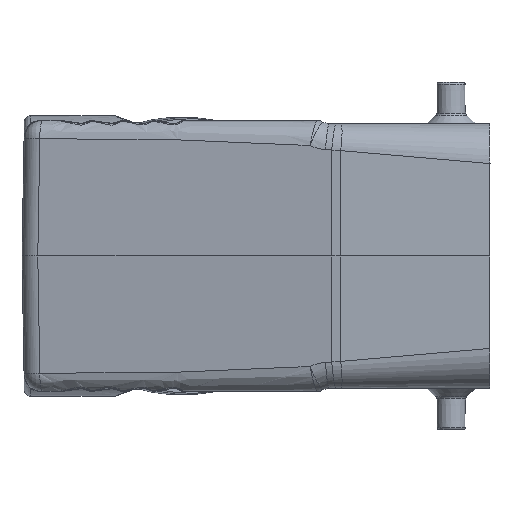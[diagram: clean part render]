
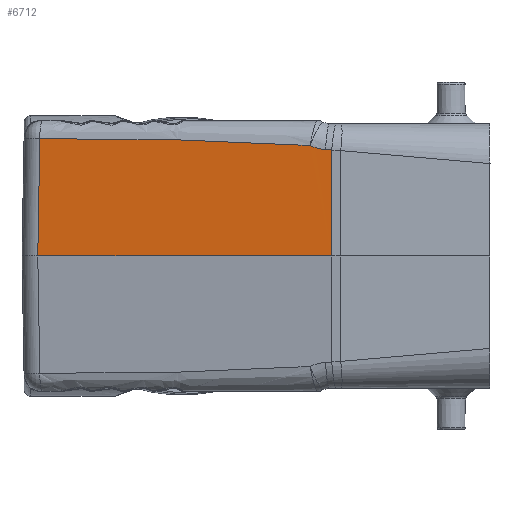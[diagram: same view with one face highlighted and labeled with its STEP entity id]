
A CAD part, left-side view. The second image highlights one B-rep face of the part: STEP entity #6712.
In plain terms, the highlighted planar face has unit normal (-0.989, 0.145, 0.018).
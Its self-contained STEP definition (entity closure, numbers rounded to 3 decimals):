
#768 = B_SPLINE_CURVE_WITH_KNOTS ( 'NONE', 3,
 ( #10214, #12835, #28112, #1052 ),
 .UNSPECIFIED., .F., .F.,
 ( 4, 4 ),
 ( 0., 1. ),
 .UNSPECIFIED. ) ;
#1052 = CARTESIAN_POINT ( 'NONE',  ( -59.894, 25.723, 0. ) ) ;
#1308 = CARTESIAN_POINT ( 'NONE',  ( -59.124, 28.828, 17.751 ) ) ;
#1756 = CARTESIAN_POINT ( 'NONE',  ( -57.721, 38.286, 18.442 ) ) ;
#1798 = CARTESIAN_POINT ( 'NONE',  ( -59.443, 26.711, 17.282 ) ) ;
#1857 = CARTESIAN_POINT ( 'NONE',  ( -54.235, 61.915, 19.036 ) ) ;
#1959 = CARTESIAN_POINT ( 'NONE',  ( -59.513, 26.243, 17.257 ) ) ;
#2058 = LINE ( 'NONE', #8471, #17119 ) ;
#2682 = ORIENTED_EDGE ( 'NONE', *, *, #3342, .F. ) ;
#2864 = CARTESIAN_POINT ( 'NONE',  ( -59.064, 29.221, 17.944 ) ) ;
#3262 = DIRECTION ( 'NONE',  ( -0.145, -0.989, 0. ) ) ;
#3342 = EDGE_CURVE ( 'NONE', #30840, #11998, #2058, .T. ) ;
#3564 = CARTESIAN_POINT ( 'NONE',  ( -59.315, 27.575, 17.376 ) ) ;
#3800 = DIRECTION ( 'NONE',  ( -0.145, -0.989, 0. ) ) ;
#4069 = VERTEX_POINT ( 'NONE', #7689 ) ;
#4111 = CARTESIAN_POINT ( 'NONE',  ( -55.045, 56.419, 18.977 ) ) ;
#4217 = CARTESIAN_POINT ( 'NONE',  ( -55.241, 55.088, 18.955 ) ) ;
#4425 = CARTESIAN_POINT ( 'NONE',  ( -54.22, 62.021, 19.037 ) ) ;
#4535 = CARTESIAN_POINT ( 'NONE',  ( -56.298, 47.921, 18.784 ) ) ;
#5321 = EDGE_CURVE ( 'NONE', #6086, #9155, #8716, .T. ) ;
#5507 = ORIENTED_EDGE ( 'NONE', *, *, #29821, .T. ) ;
#5944 = B_SPLINE_CURVE_WITH_KNOTS ( 'NONE', 3,
 ( #28926, #31201, #1959, #6889 ),
 .UNSPECIFIED., .F., .F.,
 ( 4, 4 ),
 ( 0., 1. ),
 .UNSPECIFIED. ) ;
#6086 = VERTEX_POINT ( 'NONE', #1798 ) ;
#6563 = CARTESIAN_POINT ( 'NONE',  ( -53.104, 69.604, 19.057 ) ) ;
#6674 = CARTESIAN_POINT ( 'NONE',  ( -54.45, 60.456, 19.026 ) ) ;
#6712 = ADVANCED_FACE ( 'NONE', ( #22567 ), #27954, .T. ) ;
#6786 = EDGE_CURVE ( 'NONE', #15996, #6086, #5944, .T. ) ;
#6889 = CARTESIAN_POINT ( 'NONE',  ( -59.443, 26.711, 17.282 ) ) ;
#6891 = CARTESIAN_POINT ( 'NONE',  ( -54.328, 61.286, 19.032 ) ) ;
#7270 = AXIS2_PLACEMENT_3D ( 'NONE', #15576, #25173, #3262 ) ;
#7439 = B_SPLINE_CURVE_WITH_KNOTS ( 'NONE', 3,
 ( #14057, #16537, #1756, #11566, #4535, #11780, #19343, #19015, #9044, #21837, #28822, #14161, #24289, #4217, #29042, #24085, #4111, #9486, #26341, #31528, #6674, #6891, #11892, #1857, #4425, #21713, #26652, #23985, #24190, #9157, #9374, #21410, #26755, #11682, #31422, #12002, #29247, #14473, #16431, #6563, #23881, #24507 ),
 .UNSPECIFIED., .F., .F.,
 ( 4, 1, 1, 1, 1, 1, 1, 2, 2, 1, 1, 1, 2, 2, 1, 1, 1, 1, 1, 1, 1, 2, 2, 1, 1, 1, 1, 1, 1, 2, 2, 4 ),
 ( 0., 0.25, 0.375, 0.438, 0.469, 0.484, 0.492, 0.496, 0.5, 0.563, 0.594, 0.609, 0.617, 0.625, 0.688, 0.719, 0.734, 0.742, 0.746, 0.748, 0.749, 0.75, 0.75, 0.813, 0.844, 0.859, 0.867, 0.871, 0.873, 0.874, 0.875, 1. ),
 .UNSPECIFIED. ) ;
#7689 = CARTESIAN_POINT ( 'NONE',  ( -59.894, 25.723, 0. ) ) ;
#8471 = CARTESIAN_POINT ( 'NONE',  ( -54.073, 74.821, -79.306 ) ) ;
#8716 = B_SPLINE_CURVE_WITH_KNOTS ( 'NONE', 3,
 ( #28488, #28378, #3564, #25901, #1308, #13931 ),
 .UNSPECIFIED., .F., .F.,
 ( 4, 2, 4 ),
 ( 0., 0.5, 1. ),
 .UNSPECIFIED. ) ;
#9039 = EDGE_LOOP ( 'NONE', ( #28819, #27660, #5507, #2682, #17537, #14058 ) ) ;
#9044 = CARTESIAN_POINT ( 'NONE',  ( -55.855, 50.92, 18.864 ) ) ;
#9155 = VERTEX_POINT ( 'NONE', #2864 ) ;
#9157 = CARTESIAN_POINT ( 'NONE',  ( -54.096, 62.865, 19.041 ) ) ;
#9374 = CARTESIAN_POINT ( 'NONE',  ( -53.913, 64.104, 19.047 ) ) ;
#9486 = CARTESIAN_POINT ( 'NONE',  ( -55.028, 56.531, 18.979 ) ) ;
#10214 = CARTESIAN_POINT ( 'NONE',  ( -59.593, 25.701, 17.218 ) ) ;
#11159 = CARTESIAN_POINT ( 'NONE',  ( -59.593, 25.701, 17.218 ) ) ;
#11180 = EDGE_CURVE ( 'NONE', #30840, #4069, #15906, .T. ) ;
#11566 = CARTESIAN_POINT ( 'NONE',  ( -56.773, 44.7, 18.684 ) ) ;
#11682 = CARTESIAN_POINT ( 'NONE',  ( -53.466, 67.143, 19.054 ) ) ;
#11780 = CARTESIAN_POINT ( 'NONE',  ( -56.06, 49.535, 18.829 ) ) ;
#11892 = CARTESIAN_POINT ( 'NONE',  ( -54.266, 61.705, 19.035 ) ) ;
#11998 = VERTEX_POINT ( 'NONE', #24734 ) ;
#12002 = CARTESIAN_POINT ( 'NONE',  ( -53.414, 67.496, 19.054 ) ) ;
#12835 = CARTESIAN_POINT ( 'NONE',  ( -59.693, 25.709, 11.478 ) ) ;
#13931 = CARTESIAN_POINT ( 'NONE',  ( -59.064, 29.221, 17.944 ) ) ;
#14057 = CARTESIAN_POINT ( 'NONE',  ( -59.064, 29.221, 17.944 ) ) ;
#14058 = ORIENTED_EDGE ( 'NONE', *, *, #23440, .F. ) ;
#14161 = CARTESIAN_POINT ( 'NONE',  ( -55.681, 52.104, 18.893 ) ) ;
#14473 = CARTESIAN_POINT ( 'NONE',  ( -53.402, 67.581, 19.054 ) ) ;
#15576 = CARTESIAN_POINT ( 'NONE',  ( -60., 25., 0. ) ) ;
#15906 = LINE ( 'NONE', #20578, #28239 ) ;
#15996 = VERTEX_POINT ( 'NONE', #11159 ) ;
#16431 = CARTESIAN_POINT ( 'NONE',  ( -53.399, 67.6, 19.054 ) ) ;
#16537 = CARTESIAN_POINT ( 'NONE',  ( -58.527, 32.834, 18.162 ) ) ;
#17119 = VECTOR ( 'NONE', #25664, 1000. ) ;
#17537 = ORIENTED_EDGE ( 'NONE', *, *, #11180, .T. ) ;
#19015 = CARTESIAN_POINT ( 'NONE',  ( -55.881, 50.747, 18.86 ) ) ;
#19343 = CARTESIAN_POINT ( 'NONE',  ( -55.941, 50.343, 18.85 ) ) ;
#19508 = CARTESIAN_POINT ( 'NONE',  ( -52.877, 73.437, 0. ) ) ;
#20578 = CARTESIAN_POINT ( 'NONE',  ( -60., 25., 0. ) ) ;
#21410 = CARTESIAN_POINT ( 'NONE',  ( -53.666, 65.783, 19.051 ) ) ;
#21713 = CARTESIAN_POINT ( 'NONE',  ( -54.212, 62.074, 19.037 ) ) ;
#21837 = CARTESIAN_POINT ( 'NONE',  ( -55.838, 51.036, 18.867 ) ) ;
#22567 = FACE_OUTER_BOUND ( 'NONE', #9039, .T. ) ;
#23440 = EDGE_CURVE ( 'NONE', #15996, #4069, #768, .T. ) ;
#23881 = CARTESIAN_POINT ( 'NONE',  ( -52.835, 71.433, 19.057 ) ) ;
#23985 = CARTESIAN_POINT ( 'NONE',  ( -54.207, 62.112, 19.037 ) ) ;
#24085 = CARTESIAN_POINT ( 'NONE',  ( -55.077, 56.199, 18.974 ) ) ;
#24190 = CARTESIAN_POINT ( 'NONE',  ( -54.205, 62.121, 19.037 ) ) ;
#24289 = CARTESIAN_POINT ( 'NONE',  ( -55.474, 53.505, 18.925 ) ) ;
#24507 = CARTESIAN_POINT ( 'NONE',  ( -52.59, 73.104, 19.052 ) ) ;
#24734 = CARTESIAN_POINT ( 'NONE',  ( -52.59, 73.104, 19.052 ) ) ;
#25173 = DIRECTION ( 'NONE',  ( -0.989, 0.145, 0.017 ) ) ;
#25664 = DIRECTION ( 'NONE',  ( 0.015, -0.017, 1. ) ) ;
#25901 = CARTESIAN_POINT ( 'NONE',  ( -59.187, 28.42, 17.598 ) ) ;
#26341 = CARTESIAN_POINT ( 'NONE',  ( -54.885, 57.5, 18.994 ) ) ;
#26652 = CARTESIAN_POINT ( 'NONE',  ( -54.209, 62.097, 19.037 ) ) ;
#26755 = CARTESIAN_POINT ( 'NONE',  ( -53.534, 66.68, 19.053 ) ) ;
#27660 = ORIENTED_EDGE ( 'NONE', *, *, #5321, .T. ) ;
#27954 = PLANE ( 'NONE',  #7270 ) ;
#28112 = CARTESIAN_POINT ( 'NONE',  ( -59.793, 25.716, 5.739 ) ) ;
#28239 = VECTOR ( 'NONE', #3800, 1000. ) ;
#28378 = CARTESIAN_POINT ( 'NONE',  ( -59.379, 27.147, 17.308 ) ) ;
#28488 = CARTESIAN_POINT ( 'NONE',  ( -59.443, 26.711, 17.282 ) ) ;
#28819 = ORIENTED_EDGE ( 'NONE', *, *, #6786, .T. ) ;
#28822 = CARTESIAN_POINT ( 'NONE',  ( -55.83, 51.091, 18.869 ) ) ;
#28926 = CARTESIAN_POINT ( 'NONE',  ( -59.593, 25.701, 17.218 ) ) ;
#29042 = CARTESIAN_POINT ( 'NONE',  ( -55.126, 55.868, 18.968 ) ) ;
#29247 = CARTESIAN_POINT ( 'NONE',  ( -53.407, 67.547, 19.054 ) ) ;
#29821 = EDGE_CURVE ( 'NONE', #9155, #11998, #7439, .T. ) ;
#30840 = VERTEX_POINT ( 'NONE', #19508 ) ;
#31201 = CARTESIAN_POINT ( 'NONE',  ( -59.563, 25.906, 17.236 ) ) ;
#31422 = CARTESIAN_POINT ( 'NONE',  ( -53.432, 67.378, 19.054 ) ) ;
#31528 = CARTESIAN_POINT ( 'NONE',  ( -54.689, 58.832, 19.011 ) ) ;
